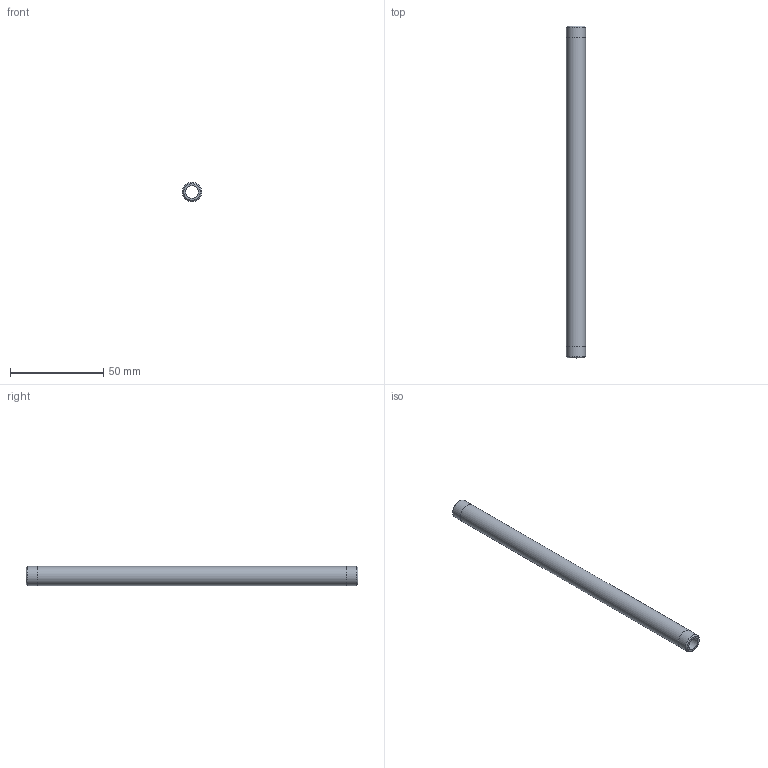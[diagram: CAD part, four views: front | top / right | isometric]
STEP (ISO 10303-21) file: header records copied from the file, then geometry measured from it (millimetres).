
FILE_DESCRIPTION(/* description */ (''),/* implementation_level */ '2;1');
FILE_NAME(/* name */ 'C:/Users/drich/Desktop/BPN18-7 v1.step',/* time_stamp */ '2020-01-03T14:49:21-06:00',/* author */ (''),/* organization */ (''),/* preprocessor_version */ 'ST-DEVELOPER v18',/* originating_system */ 'Autodesk Translation Framework v8.12.0.6',/* authorisation */ '');
FILE_SCHEMA (('AUTOMOTIVE_DESIGN { 1 0 10303 214 3 1 1 }'));
Length unit declared in the file: inch
Products named in the file (1): BPN18-7
Bounding box: 10.31 x 177.8 x 10.31 mm (x, y, z)
Volume: 8303.1 mm3; surface area: 9638.2 mm2
Topology: 1 solids, 1 shells, 10 faces, 24 edges, 18 vertices
Faces by surface type: cylinder 4, plane 4, cone 2
Full cylindrical faces by diameter (mm): 6.833 x1, 10.262 x2, 10.312 x1
Entity records: 360 total; most frequent: DIRECTION 64, CARTESIAN_POINT 53, ORIENTED_EDGE 48, AXIS2_PLACEMENT_3D 29, EDGE_CURVE 24, CIRCLE 18, VERTEX_POINT 18, EDGE_LOOP 14
